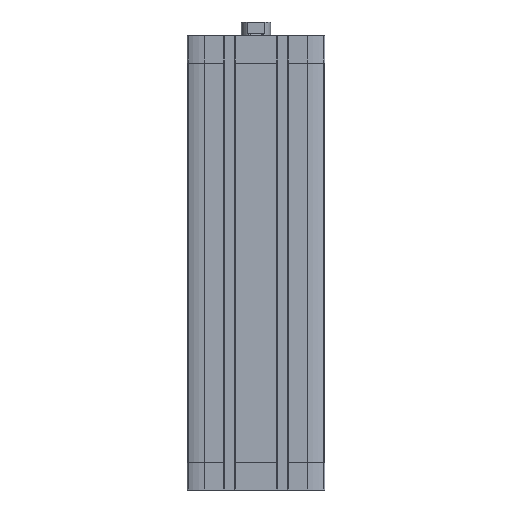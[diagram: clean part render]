
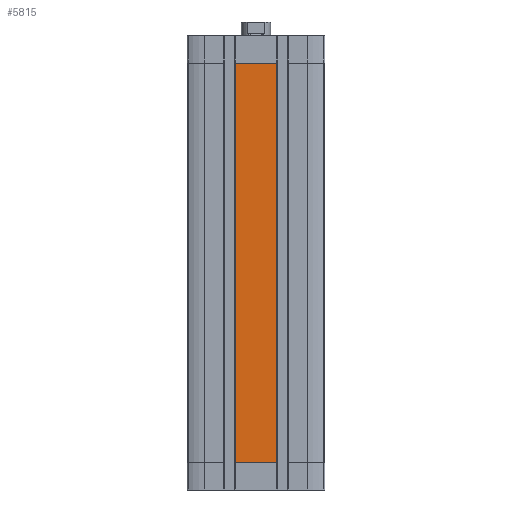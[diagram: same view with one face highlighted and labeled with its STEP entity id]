
A CAD part, front view. The second image highlights one B-rep face of the part: STEP entity #5815.
In plain terms, the highlighted planar face has unit normal (0, -1, 0).
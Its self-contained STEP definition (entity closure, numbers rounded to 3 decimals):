
#13 = VECTOR ( 'NONE', #11680, 1000. ) ;
#78 = ORIENTED_EDGE ( 'NONE', *, *, #9577, .T. ) ;
#151 = VERTEX_POINT ( 'NONE', #12869 ) ;
#526 = EDGE_CURVE ( 'NONE', #2859, #151, #3299, .T. ) ;
#1120 = DIRECTION ( 'NONE',  ( 0., 0., -1. ) ) ;
#1265 = ORIENTED_EDGE ( 'NONE', *, *, #3201, .T. ) ;
#1322 = EDGE_LOOP ( 'NONE', ( #11244, #1265, #78, #4969 ) ) ;
#1797 = DIRECTION ( 'NONE',  ( 0., 0., -1. ) ) ;
#2859 = VERTEX_POINT ( 'NONE', #14265 ) ;
#3201 = EDGE_CURVE ( 'NONE', #151, #3946, #11684, .T. ) ;
#3299 = LINE ( 'NONE', #10999, #13 ) ;
#3946 = VERTEX_POINT ( 'NONE', #9240 ) ;
#4063 = EDGE_CURVE ( 'NONE', #14777, #2859, #4085, .T. ) ;
#4085 = LINE ( 'NONE', #11397, #10036 ) ;
#4969 = ORIENTED_EDGE ( 'NONE', *, *, #4063, .T. ) ;
#5532 = VECTOR ( 'NONE', #10587, 1000. ) ;
#5815 = ADVANCED_FACE ( 'NONE', ( #13591 ), #7225, .T. ) ;
#5840 = CARTESIAN_POINT ( 'NONE',  ( 0., -37.5, -15. ) ) ;
#7225 = PLANE ( 'NONE',  #13639 ) ;
#8414 = DIRECTION ( 'NONE',  ( 0., -1., 0. ) ) ;
#9209 = CARTESIAN_POINT ( 'NONE',  ( -11.4, -37.5, -15. ) ) ;
#9240 = CARTESIAN_POINT ( 'NONE',  ( 11.4, -37.5, -15. ) ) ;
#9577 = EDGE_CURVE ( 'NONE', #3946, #14777, #14467, .T. ) ;
#10036 = VECTOR ( 'NONE', #1797, 1000. ) ;
#10587 = DIRECTION ( 'NONE',  ( -1., 0., 0. ) ) ;
#10800 = DIRECTION ( 'NONE',  ( 0., 0., 1. ) ) ;
#10999 = CARTESIAN_POINT ( 'NONE',  ( -11.4, -37.5, -234. ) ) ;
#11244 = ORIENTED_EDGE ( 'NONE', *, *, #526, .T. ) ;
#11397 = CARTESIAN_POINT ( 'NONE',  ( -11.4, -37.5, -234. ) ) ;
#11680 = DIRECTION ( 'NONE',  ( 1., 0., 0. ) ) ;
#11684 = LINE ( 'NONE', #11991, #12387 ) ;
#11991 = CARTESIAN_POINT ( 'NONE',  ( 11.4, -37.5, -234. ) ) ;
#12387 = VECTOR ( 'NONE', #10800, 1000. ) ;
#12869 = CARTESIAN_POINT ( 'NONE',  ( 11.4, -37.5, -234. ) ) ;
#13591 = FACE_OUTER_BOUND ( 'NONE', #1322, .T. ) ;
#13639 = AXIS2_PLACEMENT_3D ( 'NONE', #15259, #8414, #1120 ) ;
#14265 = CARTESIAN_POINT ( 'NONE',  ( -11.4, -37.5, -234. ) ) ;
#14467 = LINE ( 'NONE', #5840, #5532 ) ;
#14777 = VERTEX_POINT ( 'NONE', #9209 ) ;
#15259 = CARTESIAN_POINT ( 'NONE',  ( -11.4, -37.5, -234. ) ) ;
